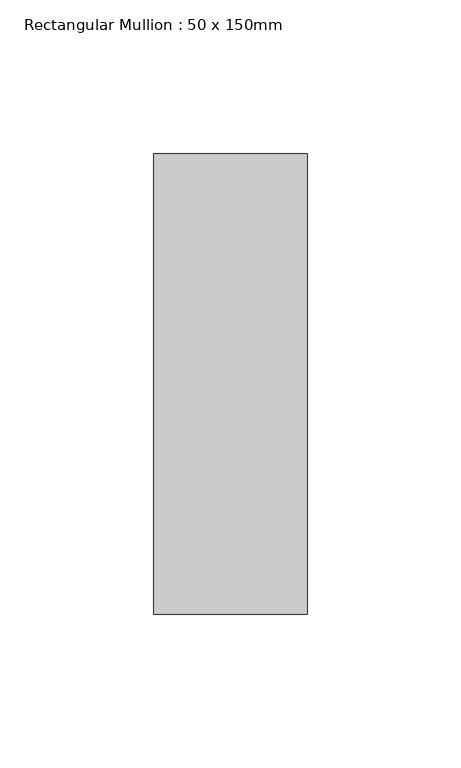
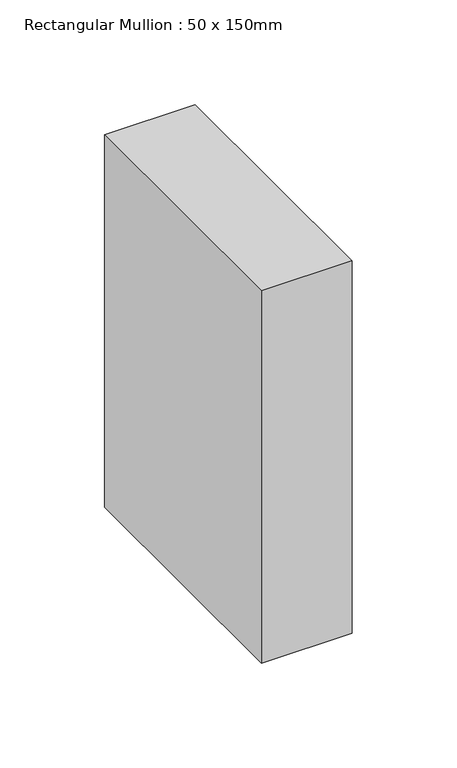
"""IFC4 building model written with IfcOpenShell, lengths in millimetres: member geometry, Rectangular Mullion : 50 x 150mm."""

import ifcopenshell
import ifcopenshell.guid

model = None  # the IFC model being written
_history = None  # IfcOwnerHistory: only IFC2X3 demands one
_inside = {}  # id of a spatial element -> (the spatial element, [elements in it])
_under = {}  # id of a project, library or spatial element -> (it, [spatial elements below it])
_declared = {}  # id of a project -> (the project, [libraries it declares])
_typed = {}  # id of a type object -> (the type object, [elements of that type])
_made_of = {}  # id of a material, layer set ... -> (it, [elements and type objects made of it])


def new_model(schema):
    """Start an empty IFC model of exactly this schema.

    Asked for "IFC4X3", IfcOpenShell would pick the latest addendum, in which some entities
    have other attributes; the version numbers below select the first issue.
    IFC2X3 requires an IfcOwnerHistory on every rooted entity: one is made here for all.
    """
    global model, _history
    if schema == "IFC4X3":
        model = ifcopenshell.file(schema_version=(4, 3, 0, 0))
    else:
        model = ifcopenshell.file(schema=schema)
    _inside.clear()
    _under.clear()
    _declared.clear()
    _typed.clear()
    _made_of.clear()
    _history = None
    if model.schema == "IFC2X3":
        org = make("IfcOrganization", Name="unknown")
        user = make(
            "IfcPersonAndOrganization",
            ThePerson=make("IfcPerson", FamilyName="unknown"),
            TheOrganization=org,
        )
        app = make(
            "IfcApplication",
            ApplicationDeveloper=org,
            Version="unknown",
            ApplicationFullName="unknown",
            ApplicationIdentifier="unknown",
        )
        _history = make(
            "IfcOwnerHistory",
            OwningUser=user,
            OwningApplication=app,
            ChangeAction="ADDED",
            CreationDate=0,
        )
    return model


def make(cls, **values):
    """One entity of the class cls with the attributes given. An attribute that is None is left unset."""
    return model.create_entity(
        cls, **{name: value for name, value in values.items() if value is not None}
    )


def rooted(cls, **values):
    """An entity with a GlobalId (a new one), such as an element, a storey or a relation."""
    return make(cls, GlobalId=ifcopenshell.guid.new(), OwnerHistory=_history, **values)


def si_unit(unit_type, name, prefix=None):
    """IfcSIUnit, for example si_unit("LENGTHUNIT", "METRE", prefix="MILLI")."""
    return make("IfcSIUnit", UnitType=unit_type, Prefix=prefix, Name=name)


def assignment(units):
    """IfcUnitAssignment: the units of a project."""
    return None if units is None else make("IfcUnitAssignment", Units=units)


def point(xyz):
    """IfcCartesianPoint."""
    return None if xyz is None else make("IfcCartesianPoint", Coordinates=xyz)


def direction(xyz):
    """IfcDirection."""
    return None if xyz is None else make("IfcDirection", DirectionRatios=xyz)


def frame(location, z_axis=None, x_axis=None):
    """IfcAxis2Placement3D, a coordinate frame: its origin and axes. An axis left out is left unset."""
    return make(
        "IfcAxis2Placement3D",
        Location=point(location),
        Axis=direction(z_axis),
        RefDirection=direction(x_axis),
    )


def origin():
    """The frame at (0, 0, 0) with its axes left unset."""
    return frame((0.0, 0.0, 0.0))


def place(relative_to, where):
    """IfcLocalPlacement: puts the frame where relative to a parent placement (None: the world)."""
    return make(
        "IfcLocalPlacement", PlacementRelTo=relative_to, RelativePlacement=where
    )


def context(
    kind, dimensions, precision=None, world=None, true_north=None, identifier=None
):
    """IfcGeometricRepresentationContext, for example the 3D "Model" context."""
    return make(
        "IfcGeometricRepresentationContext",
        ContextIdentifier=identifier,
        ContextType=kind,
        CoordinateSpaceDimension=dimensions,
        Precision=precision,
        WorldCoordinateSystem=world,
        TrueNorth=true_north,
    )


def project(units=None, contexts=None):
    """IfcProject with its units and contexts."""
    return rooted(
        "IfcProject",
        Name="project",
        RepresentationContexts=contexts,
        UnitsInContext=assignment(units),
    )


def spatial(cls, under=None, at=None, **own):
    """A site, building, storey or space (cls), placed at a placement, below another one or the project."""
    s = rooted(cls, ObjectPlacement=at, **own)
    if under is not None:
        _under.setdefault(under.id(), (under, []))[1].append(s)
    return s


def polyline(points):
    """IfcPolyline through the points."""
    return make("IfcPolyline", Points=[point(p) for p in points])


def outline(outer, holes=None, kind="AREA"):
    """IfcArbitraryClosedProfileDef: a profile drawn as a closed curve; with holes, ...WithVoids."""
    if holes is None:
        return make("IfcArbitraryClosedProfileDef", ProfileType=kind, OuterCurve=outer)
    return make(
        "IfcArbitraryProfileDefWithVoids",
        ProfileType=kind,
        OuterCurve=outer,
        InnerCurves=holes,
    )


def extrude(swept, where, along, depth):
    """IfcExtrudedAreaSolid: the profile swept, set in the frame where, extruded along a direction by depth."""
    return make(
        "IfcExtrudedAreaSolid",
        SweptArea=swept,
        Position=where,
        ExtrudedDirection=direction(along),
        Depth=depth,
    )


def shape(context_of_items, identifier, shape_type, items):
    """IfcShapeRepresentation: the items that make up one representation, for example the "Body"."""
    return make(
        "IfcShapeRepresentation",
        ContextOfItems=context_of_items,
        RepresentationIdentifier=identifier,
        RepresentationType=shape_type,
        Items=items,
    )


def source(mapping_origin, context_of_items, identifier, shape_type, items):
    """IfcRepresentationMap: a shape defined once, which mapped items show again and again."""
    return make(
        "IfcRepresentationMap",
        MappingOrigin=mapping_origin,
        MappedRepresentation=shape(context_of_items, identifier, shape_type, items),
    )


def transform(
    local_origin,
    x_axis=None,
    y_axis=None,
    z_axis=None,
    scale=None,
    scale2=None,
    scale3=None,
    uniform=True,
):
    """IfcCartesianTransformationOperator3D, or its non-uniform kind. x_axis, y_axis, z_axis: its Axis1, 2, 3."""
    if uniform:
        return make(
            "IfcCartesianTransformationOperator3D",
            Axis1=direction(x_axis),
            Axis2=direction(y_axis),
            LocalOrigin=point(local_origin),
            Scale=scale,
            Axis3=direction(z_axis),
        )
    return make(
        "IfcCartesianTransformationOperator3DnonUniform",
        Axis1=direction(x_axis),
        Axis2=direction(y_axis),
        LocalOrigin=point(local_origin),
        Scale=scale,
        Axis3=direction(z_axis),
        Scale2=scale2,
        Scale3=scale3,
    )


def mapped(mapping_source, mapping_target):
    """IfcMappedItem: shows the shape of a source again, moved by a transform."""
    return make(
        "IfcMappedItem", MappingSource=mapping_source, MappingTarget=mapping_target
    )


def made_of(thing, what):
    """Note that an element or type object is made of a material, layer set ...; save() writes the relation."""
    if what is not None:
        _made_of.setdefault(what.id(), (what, []))[1].append(thing)
    return thing


def element(
    cls,
    number,
    at=None,
    inside=None,
    cuts=None,
    type_object=None,
    material=None,
    context=None,
    identifier="Body",
    shape_type=None,
    held_by="IfcProductDefinitionShape",
    body=None,
    shapes=None,
    **own,
):
    """One element of the class cls, such as IfcWall. Its Tag is "e" and its number.

    at: its placement. inside: the storey or other place that contains it. cuts: it is an
    opening in that element (IfcRelVoidsElement). A single representation is given by context,
    identifier, shape_type and body (its items); several are given by shapes. held_by: the class
    of the entity that holds the representations. save() writes the other relations.
    """
    e = rooted(cls, Tag="e%d" % number, ObjectPlacement=at, **own)
    if body is not None:
        shapes = [shape(context, identifier, shape_type, body)]
    if shapes is not None:
        e.Representation = make(held_by, Representations=shapes)
    if inside is not None:
        _inside.setdefault(inside.id(), (inside, []))[1].append(e)
    if cuts is not None:
        rooted(
            "IfcRelVoidsElement", RelatingBuildingElement=cuts, RelatedOpeningElement=e
        )
    if type_object is not None:
        _typed.setdefault(type_object.id(), (type_object, []))[1].append(e)
    return made_of(e, material)


def aggregate(whole, parts):
    """IfcRelAggregates: a whole, such as a stair, and the parts it consists of."""
    return rooted("IfcRelAggregates", RelatingObject=whole, RelatedObjects=parts)


def save(model, path):
    """Write the relations noted so far, then the file.

    IfcRelAggregates (storeys below a building ...), IfcRelContainedInSpatialStructure (elements
    in a storey), IfcRelDefinesByType, IfcRelAssociatesMaterial and IfcRelDeclares: one each for
    every whole, place, type object, material and project.
    """
    for whole, parts in _under.values():
        aggregate(whole, parts)
    for where, things in _inside.values():
        rooted(
            "IfcRelContainedInSpatialStructure",
            RelatedElements=things,
            RelatingStructure=where,
        )
    for kind, things in _typed.values():
        rooted("IfcRelDefinesByType", RelatedObjects=things, RelatingType=kind)
    for what, things in _made_of.values():
        rooted("IfcRelAssociatesMaterial", RelatedObjects=things, RelatingMaterial=what)
    for by, libraries in _declared.values():
        rooted("IfcRelDeclares", RelatingContext=by, RelatedDefinitions=libraries)
    model.write(path)


def rectangular_mullion_50_x_150mm_939af8bf(model_context):
    return source(origin(), model_context, "Body", "SweptSolid", [
        extrude(outline(polyline([(0.0, 75.0), (0.0, -75.0), (-50.0, -75.0), (-50.0, 75.0), (0.0, 75.0)])), frame((0.0, 0.0, -217.1806764), z_axis=(0.0, 0.0, 1.0), x_axis=(1.0, 0.0, 0.0)), (0.0, 0.0, 1.0), 217.1806764),
    ])


if __name__ == "__main__":
    model = new_model("IFC4")
    model_context = context("Model", 3, world=origin())
    ifc_project = project(units=[si_unit("LENGTHUNIT", "METRE", prefix="MILLI")], contexts=[model_context])
    site = spatial("IfcSite", under=ifc_project)
    building = spatial("IfcBuilding", under=site)
    placement = place(None, origin())
    rectangular_mullion_50_x_150mm_shape = rectangular_mullion_50_x_150mm_939af8bf(model_context)
    element("IfcMember", 1, ObjectType="Rectangular Mullion : 50 x 150mm", at=placement, inside=building, context=model_context, shape_type="MappedRepresentation", body=[
        mapped(rectangular_mullion_50_x_150mm_shape, transform((0.0, 0.0, 0.0), x_axis=(1.0, 0.0, 0.0), y_axis=(0.0, 1.0, 0.0), z_axis=(0.0, 0.0, 1.0))),
    ])
    save(model, "model.ifc")
